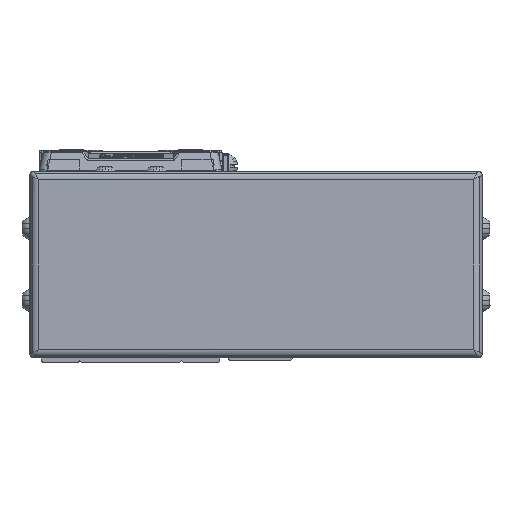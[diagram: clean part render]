
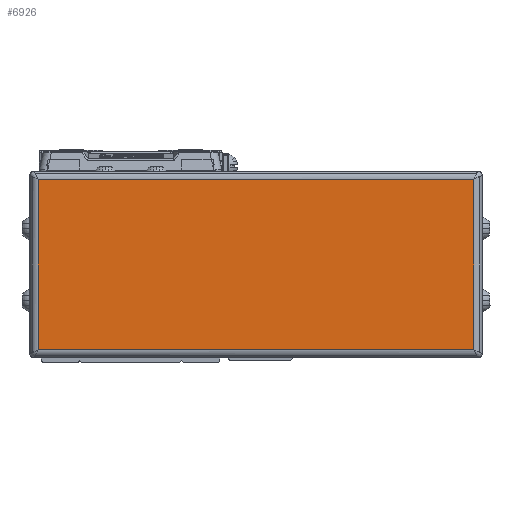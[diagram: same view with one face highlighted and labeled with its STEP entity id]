
A CAD part, left-side view. The second image highlights one B-rep face of the part: STEP entity #6926.
In plain terms, the highlighted planar face has unit normal (-1, 0, 0).
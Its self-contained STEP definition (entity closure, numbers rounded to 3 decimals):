
#6926=ADVANCED_FACE('',(#14116),#14117,.T.);
#14116=FACE_OUTER_BOUND('',#24108,.T.);
#14117=PLANE('',#24109);
#24108=EDGE_LOOP('',(#44463,#44464,#44465,#44466));
#24109=AXIS2_PLACEMENT_3D('',#44467,#44468,#44469);
#44463=ORIENTED_EDGE('',*,*,#50143,.F.);
#44464=ORIENTED_EDGE('',*,*,#51207,.F.);
#44465=ORIENTED_EDGE('',*,*,#54586,.F.);
#44466=ORIENTED_EDGE('',*,*,#53333,.F.);
#44467=CARTESIAN_POINT('',(-48.,-29.5,-4.));
#44468=DIRECTION('',(-1.0,0.,0.));
#44469=DIRECTION('',(0.,0.,1.0));
#50143=EDGE_CURVE('',#60894,#60896,#60897,.T.);
#51207=EDGE_CURVE('',#59236,#60894,#62441,.T.);
#53333=EDGE_CURVE('',#60896,#65314,#65315,.T.);
#54586=EDGE_CURVE('',#65314,#59236,#66706,.T.);
#59236=VERTEX_POINT('',#72927);
#60894=VERTEX_POINT('',#75490);
#60896=VERTEX_POINT('',#75492);
#60897=LINE('',#75493,#75494);
#62441=LINE('',#77687,#77688);
#65314=VERTEX_POINT('',#81996);
#65315=LINE('',#81997,#81998);
#66706=LINE('',#84017,#84018);
#72927=CARTESIAN_POINT('',(-48.,21.7,-24.));
#75490=CARTESIAN_POINT('',(-48.,21.7,16.));
#75492=CARTESIAN_POINT('',(-48.,-80.7,16.));
#75493=CARTESIAN_POINT('',(-48.,-29.5,16.));
#75494=VECTOR('',#89234,10.0);
#77687=CARTESIAN_POINT('',(-48.,21.7,-4.));
#77688=VECTOR('',#90528,10.0);
#81996=CARTESIAN_POINT('',(-48.,-80.7,-24.));
#81997=CARTESIAN_POINT('',(-48.,-80.7,-4.));
#81998=VECTOR('',#93059,10.0);
#84017=CARTESIAN_POINT('',(-48.,-29.5,-24.));
#84018=VECTOR('',#94207,10.0);
#89234=DIRECTION('',(0.,-1.0,0.));
#90528=DIRECTION('',(0.,0.,1.0));
#93059=DIRECTION('',(0.,0.,-1.0));
#94207=DIRECTION('',(0.,1.0,0.));
